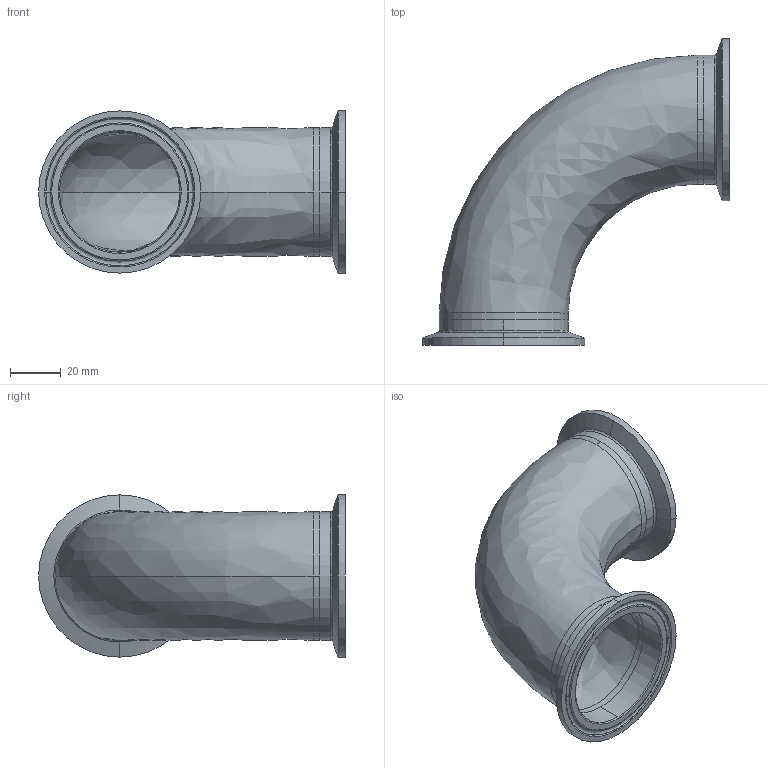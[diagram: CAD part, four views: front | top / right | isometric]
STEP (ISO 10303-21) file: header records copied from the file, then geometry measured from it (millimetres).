
FILE_DESCRIPTION (( 'STEP AP214' ), '1' );
FILE_NAME ('TEG2C6L2.0-...STEP', '2016-05-22T10:43:29', ( 'eran' ), ( '' ), 'SwSTEP 2.0', 'SolidWorks 2016', '' );
FILE_SCHEMA (( 'AUTOMOTIVE_DESIGN' ));
Length unit declared in the file: millimetre
Products named in the file (1): TEG2C6L2.0-..
Bounding box: 120.85 x 120.85 x 63.91 mm (x, y, z)
Volume: 45948.5 mm3; surface area: 50778.7 mm2
Topology: 3 solids, 3 shells, 64 faces, 162 edges, 106 vertices
Faces by surface type: bspline 24, cylinder 20, cone 12, plane 8
Entity records: 3418 total; most frequent: CARTESIAN_POINT 1813, DIRECTION 350, ORIENTED_EDGE 324, EDGE_CURVE 162, AXIS2_PLACEMENT_3D 159, CIRCLE 118, VERTEX_POINT 106, EDGE_LOOP 72
